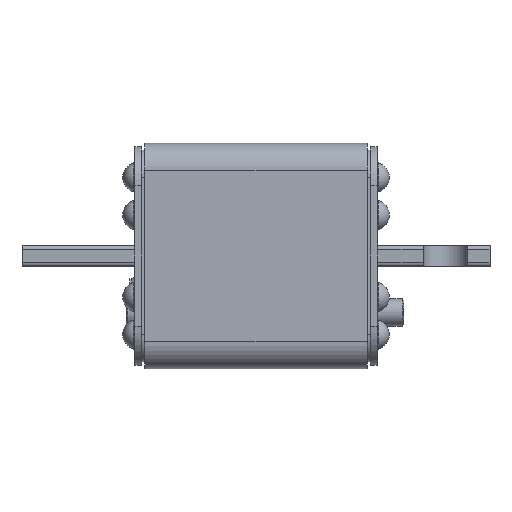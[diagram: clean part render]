
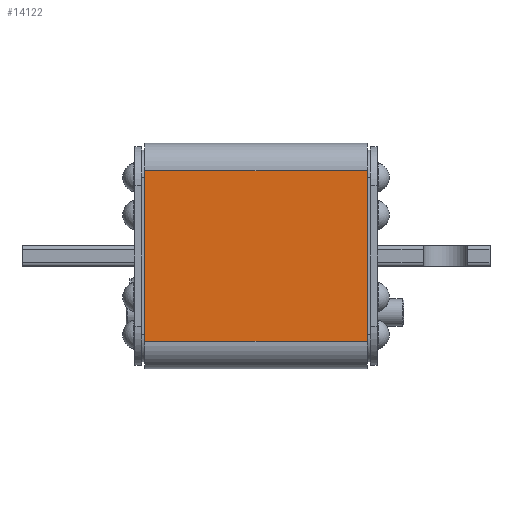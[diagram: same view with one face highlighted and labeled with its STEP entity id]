
A CAD part, front view. The second image highlights one B-rep face of the part: STEP entity #14122.
In plain terms, the highlighted planar face has unit normal (0, -1, 0).
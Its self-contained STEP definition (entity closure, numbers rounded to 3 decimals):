
#1637 = ORIENTED_EDGE ( 'NONE', *, *, #18004, .F. ) ;
#1899 = CARTESIAN_POINT ( 'NONE',  ( 33., -33., 25. ) ) ;
#1982 = DIRECTION ( 'NONE',  ( 0., 0., 1. ) ) ;
#3045 = CARTESIAN_POINT ( 'NONE',  ( 33., -33., -25. ) ) ;
#3741 = CARTESIAN_POINT ( 'NONE',  ( -32., -33., -25. ) ) ;
#4918 = LINE ( 'NONE', #1899, #20028 ) ;
#6666 = DIRECTION ( 'NONE',  ( 0., 0., -1. ) ) ;
#7170 = EDGE_CURVE ( 'NONE', #13157, #14454, #4918, .T. ) ;
#7388 = EDGE_CURVE ( 'NONE', #9350, #14454, #12061, .T. ) ;
#7558 = CARTESIAN_POINT ( 'NONE',  ( -32., -33., 25. ) ) ;
#7701 = DIRECTION ( 'NONE',  ( 0., 0., 1. ) ) ;
#7853 = EDGE_LOOP ( 'NONE', ( #17702, #19235, #1637, #9013 ) ) ;
#7927 = CARTESIAN_POINT ( 'NONE',  ( 33., -33., 25. ) ) ;
#8286 = CARTESIAN_POINT ( 'NONE',  ( -32., -33., -25. ) ) ;
#8357 = EDGE_CURVE ( 'NONE', #16695, #13157, #12761, .T. ) ;
#9013 = ORIENTED_EDGE ( 'NONE', *, *, #8357, .T. ) ;
#9350 = VERTEX_POINT ( 'NONE', #7558 ) ;
#11402 = DIRECTION ( 'NONE',  ( 1., 0., 0. ) ) ;
#11881 = DIRECTION ( 'NONE',  ( 1., 0., 0. ) ) ;
#12001 = DIRECTION ( 'NONE',  ( 0., 1., 0. ) ) ;
#12061 = LINE ( 'NONE', #16665, #14912 ) ;
#12250 = CARTESIAN_POINT ( 'NONE',  ( -32., -33., 25. ) ) ;
#12727 = PLANE ( 'NONE',  #23035 ) ;
#12761 = LINE ( 'NONE', #8286, #21807 ) ;
#13157 = VERTEX_POINT ( 'NONE', #3045 ) ;
#14122 = ADVANCED_FACE ( 'NONE', ( #15596 ), #12727, .F. ) ;
#14454 = VERTEX_POINT ( 'NONE', #7927 ) ;
#14912 = VECTOR ( 'NONE', #11402, 1000. ) ;
#15596 = FACE_OUTER_BOUND ( 'NONE', #7853, .T. ) ;
#16665 = CARTESIAN_POINT ( 'NONE',  ( -32., -33., 25. ) ) ;
#16695 = VERTEX_POINT ( 'NONE', #3741 ) ;
#17702 = ORIENTED_EDGE ( 'NONE', *, *, #7170, .T. ) ;
#18004 = EDGE_CURVE ( 'NONE', #16695, #9350, #19695, .T. ) ;
#19235 = ORIENTED_EDGE ( 'NONE', *, *, #7388, .F. ) ;
#19695 = LINE ( 'NONE', #21664, #22779 ) ;
#20028 = VECTOR ( 'NONE', #1982, 1000. ) ;
#21664 = CARTESIAN_POINT ( 'NONE',  ( -32., -33., 25. ) ) ;
#21807 = VECTOR ( 'NONE', #11881, 1000. ) ;
#22779 = VECTOR ( 'NONE', #7701, 1000. ) ;
#23035 = AXIS2_PLACEMENT_3D ( 'NONE', #12250, #12001, #6666 ) ;
